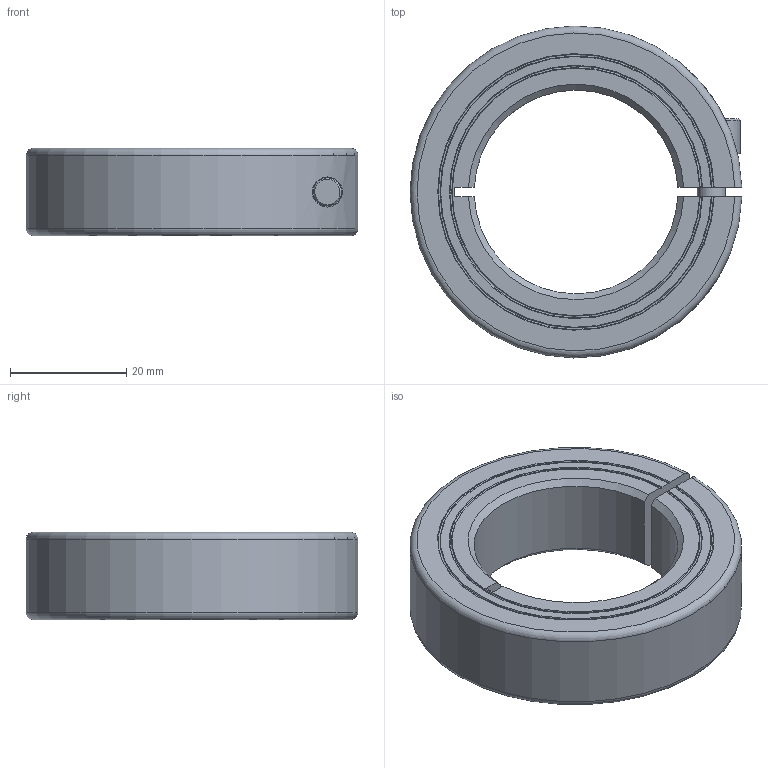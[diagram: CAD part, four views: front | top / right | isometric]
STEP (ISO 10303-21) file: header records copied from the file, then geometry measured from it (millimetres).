
FILE_DESCRIPTION((''),'2;1');
FILE_NAME('MCL-35-F','2016-09-08T',('SYSTEM'),(''),'PRO/ENGINEER BY PARAMETRIC TECHNOLOGY CORPORATION, 2015110','PRO/ENGINEER BY PARAMETRIC TECHNOLOGY CORPORATION, 2015110','');
FILE_SCHEMA(('AUTOMOTIVE_DESIGN { 1 0 10303 214 1 1 1 1 }'));
Length unit declared in the file: inch
Products named in the file (1): MCL-35-F
Bounding box: 56.99 x 56.99 x 15 mm (x, y, z)
Volume: 22659.9 mm3; surface area: 8641 mm2
Topology: 1 solids, 1 shells, 49 faces, 128 edges, 85 vertices
Faces by surface type: plane 21, cone 12, cylinder 12, torus 4
Entity records: 2053 total; most frequent: CARTESIAN_POINT 440, ORIENTED_EDGE 256, DIRECTION 245, EDGE_CURVE 128, AXIS2_PLACEMENT_3D 95, VERTEX_POINT 85, VECTOR 55, LINE 55
